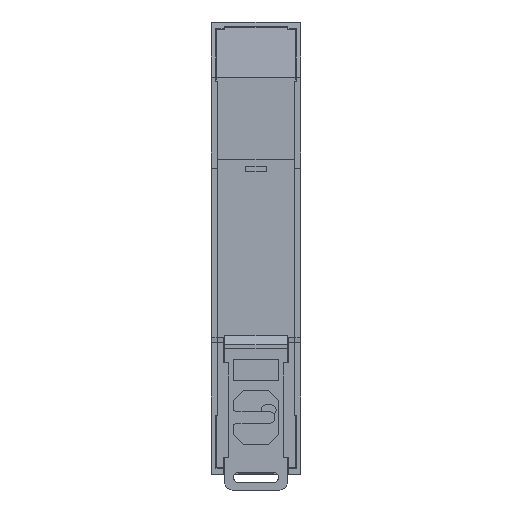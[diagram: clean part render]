
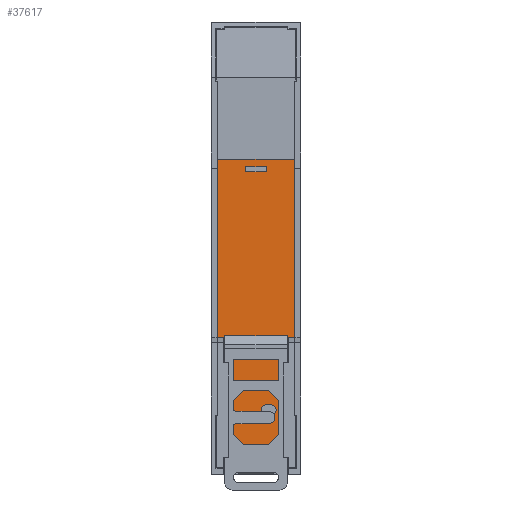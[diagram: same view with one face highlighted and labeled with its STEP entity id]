
A CAD part, front view. The second image highlights one B-rep face of the part: STEP entity #37617.
In plain terms, the highlighted planar face has unit normal (0, -1, 0).
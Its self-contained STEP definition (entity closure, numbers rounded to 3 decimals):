
#33700=DIRECTION('',(-1.,0.,0.));
#33701=VECTOR('',#33700,0.15);
#33702=CARTESIAN_POINT('',(-43.783,-18.789,-43.6));
#33703=LINE('',#33702,#33701);
#33728=DIRECTION('',(-1.,0.,0.));
#33729=VECTOR('',#33728,0.15);
#33730=CARTESIAN_POINT('',(-31.133,-18.789,-43.6));
#33731=LINE('',#33730,#33729);
#33917=DIRECTION('',(0.,0.,-1.));
#33918=VECTOR('',#33917,0.3);
#33919=CARTESIAN_POINT('',(-31.283,-18.789,-43.6));
#33920=LINE('',#33919,#33918);
#33924=DIRECTION('',(-1.,0.,0.));
#33925=VECTOR('',#33924,12.5);
#33926=CARTESIAN_POINT('',(-31.283,-18.789,-43.9));
#33927=LINE('',#33926,#33925);
#33931=DIRECTION('',(0.,0.,1.));
#33932=VECTOR('',#33931,0.3);
#33933=CARTESIAN_POINT('',(-43.783,-18.789,-43.9));
#33934=LINE('',#33933,#33932);
#33938=DIRECTION('',(1.,0.,0.));
#33939=VECTOR('',#33938,1.193);
#33940=CARTESIAN_POINT('',(-45.127,-18.789,-17.75));
#33941=LINE('',#33940,#33939);
#33945=DIRECTION('',(0.,0.,-1.));
#33946=VECTOR('',#33945,35.5);
#33947=CARTESIAN_POINT('',(-45.127,-18.789,17.75));
#33948=LINE('',#33947,#33946);
#33952=DIRECTION('',(0.,0.,1.));
#33953=VECTOR('',#33952,35.5);
#33954=CARTESIAN_POINT('',(-29.94,-18.789,-17.75));
#33955=LINE('',#33954,#33953);
#33959=DIRECTION('',(1.,0.,0.));
#33960=VECTOR('',#33959,1.193);
#33961=CARTESIAN_POINT('',(-31.133,-18.789,-17.75));
#33962=LINE('',#33961,#33960);
#33966=DIRECTION('',(0.,0.,1.));
#33967=VECTOR('',#33966,25.85);
#33968=CARTESIAN_POINT('',(-31.133,-18.789,-43.6));
#33969=LINE('',#33968,#33967);
#33973=CARTESIAN_POINT('',(-35.533,-18.789,-32.1));
#33974=DIRECTION('',(0.,1.,0.));
#33975=DIRECTION('',(0.,0.,-1.));
#33976=AXIS2_PLACEMENT_3D('',#33973,#33974,#33975);
#33981=CARTESIAN_POINT('',(-34.533,-18.789,-32.1));
#33982=DIRECTION('',(0.,1.,0.));
#33983=DIRECTION('',(0.,0.,1.));
#33984=AXIS2_PLACEMENT_3D('',#33981,#33982,#33983);
#34010=DIRECTION('',(0.,0.,1.));
#34011=VECTOR('',#34010,25.85);
#34012=CARTESIAN_POINT('',(-43.933,-18.789,-43.6));
#34013=LINE('',#34012,#34011);
#34101=DIRECTION('',(1.,0.,0.));
#34102=VECTOR('',#34101,15.187);
#34103=CARTESIAN_POINT('',(-45.127,-18.789,17.75));
#34104=LINE('',#34103,#34102);
#34122=DIRECTION('',(1.,0.,0.));
#34123=VECTOR('',#34122,4.);
#34124=CARTESIAN_POINT('',(-39.533,-18.789,15.25));
#34125=LINE('',#34124,#34123);
#34136=DIRECTION('',(0.,0.,1.));
#34137=VECTOR('',#34136,1.);
#34138=CARTESIAN_POINT('',(-35.533,-18.789,15.25));
#34139=LINE('',#34138,#34137);
#34150=DIRECTION('',(-1.,0.,0.));
#34151=VECTOR('',#34150,4.);
#34152=CARTESIAN_POINT('',(-35.533,-18.789,16.25));
#34153=LINE('',#34152,#34151);
#34164=DIRECTION('',(0.,0.,-1.));
#34165=VECTOR('',#34164,1.);
#34166=CARTESIAN_POINT('',(-39.533,-18.789,16.25));
#34167=LINE('',#34166,#34165);
#34220=DIRECTION('',(1.,0.,0.));
#34221=VECTOR('',#34220,1.);
#34222=CARTESIAN_POINT('',(-35.533,-18.789,-33.1));
#34223=LINE('',#34222,#34221);
#34241=DIRECTION('',(-1.,0.,0.));
#34242=VECTOR('',#34241,1.);
#34243=CARTESIAN_POINT('',(-34.533,-18.789,-31.1));
#34244=LINE('',#34243,#34242);
#34889=CARTESIAN_POINT('',(-45.127,-18.789,-17.75));
#34891=VERTEX_POINT('',#34889);
#34892=CARTESIAN_POINT('',(-45.127,-18.789,17.75));
#34893=VERTEX_POINT('',#34892);
#34940=CARTESIAN_POINT('',(-29.94,-18.789,17.75));
#34941=VERTEX_POINT('',#34940);
#34942=CARTESIAN_POINT('',(-29.94,-18.789,-17.75));
#34943=VERTEX_POINT('',#34942);
#35008=CARTESIAN_POINT('',(-31.133,-18.789,-43.6));
#35009=VERTEX_POINT('',#35008);
#35010=CARTESIAN_POINT('',(-43.933,-18.789,-43.6));
#35011=VERTEX_POINT('',#35010);
#35014=CARTESIAN_POINT('',(-43.933,-18.789,-17.75));
#35015=VERTEX_POINT('',#35014);
#35018=CARTESIAN_POINT('',(-31.133,-18.789,-17.75));
#35019=VERTEX_POINT('',#35018);
#35020=CARTESIAN_POINT('',(-35.533,-18.789,-33.1));
#35021=CARTESIAN_POINT('',(-35.533,-18.789,-31.1));
#35022=VERTEX_POINT('',#35020);
#35023=VERTEX_POINT('',#35021);
#35024=CARTESIAN_POINT('',(-34.533,-18.789,-31.1));
#35025=VERTEX_POINT('',#35024);
#35026=CARTESIAN_POINT('',(-34.533,-18.789,-33.1));
#35027=VERTEX_POINT('',#35026);
#35028=CARTESIAN_POINT('',(-39.533,-18.789,15.25));
#35029=CARTESIAN_POINT('',(-35.533,-18.789,15.25));
#35030=VERTEX_POINT('',#35028);
#35031=VERTEX_POINT('',#35029);
#35032=CARTESIAN_POINT('',(-39.533,-18.789,16.25));
#35033=VERTEX_POINT('',#35032);
#35034=CARTESIAN_POINT('',(-35.533,-18.789,16.25));
#35035=VERTEX_POINT('',#35034);
#35096=CARTESIAN_POINT('',(-31.283,-18.789,-43.9));
#35097=CARTESIAN_POINT('',(-43.783,-18.789,-43.9));
#35098=VERTEX_POINT('',#35096);
#35099=VERTEX_POINT('',#35097);
#35100=CARTESIAN_POINT('',(-31.283,-18.789,-43.6));
#35101=VERTEX_POINT('',#35100);
#35102=CARTESIAN_POINT('',(-43.783,-18.789,-43.6));
#35103=VERTEX_POINT('',#35102);
#37573=CARTESIAN_POINT('',(-46.433,-18.789,-17.75));
#37574=DIRECTION('',(0.,1.,0.));
#37575=DIRECTION('',(0.,0.,1.));
#37576=AXIS2_PLACEMENT_3D('',#37573,#37574,#37575);
#37577=PLANE('',#37576);
#37578=ORIENTED_EDGE('',*,*,#37405,.T.);
#37579=ORIENTED_EDGE('',*,*,#36802,.T.);
#37580=ORIENTED_EDGE('',*,*,#36863,.T.);
#37582=ORIENTED_EDGE('',*,*,#37581,.T.);
#37583=ORIENTED_EDGE('',*,*,#37388,.T.);
#37585=ORIENTED_EDGE('',*,*,#37584,.T.);
#37587=ORIENTED_EDGE('',*,*,#37586,.F.);
#37588=ORIENTED_EDGE('',*,*,#35519,.F.);
#37590=ORIENTED_EDGE('',*,*,#37589,.T.);
#37591=ORIENTED_EDGE('',*,*,#37172,.F.);
#37593=ORIENTED_EDGE('',*,*,#37592,.F.);
#37594=ORIENTED_EDGE('',*,*,#37510,.F.);
#37595=EDGE_LOOP('',(#37578,#37579,#37580,#37582,#37583,#37585,#37587,#37588,
#37590,#37591,#37593,#37594));
#37596=FACE_OUTER_BOUND('',#37595,.F.);
#37598=ORIENTED_EDGE('',*,*,#37597,.T.);
#37600=ORIENTED_EDGE('',*,*,#37599,.T.);
#37602=ORIENTED_EDGE('',*,*,#37601,.T.);
#37604=ORIENTED_EDGE('',*,*,#37603,.T.);
#37605=EDGE_LOOP('',(#37598,#37600,#37602,#37604));
#37606=FACE_BOUND('',#37605,.F.);
#37608=ORIENTED_EDGE('',*,*,#37607,.F.);
#37610=ORIENTED_EDGE('',*,*,#37609,.T.);
#37612=ORIENTED_EDGE('',*,*,#37611,.F.);
#37614=ORIENTED_EDGE('',*,*,#37613,.T.);
#37615=EDGE_LOOP('',(#37608,#37610,#37612,#37614));
#37616=FACE_BOUND('',#37615,.F.);
#33977=CIRCLE('',#33976,1.);
#33985=CIRCLE('',#33984,1.);
#35519=EDGE_CURVE('',#34893,#34891,#33948,.T.);
#36802=EDGE_CURVE('',#35101,#35098,#33920,.T.);
#36863=EDGE_CURVE('',#35098,#35099,#33927,.T.);
#37172=EDGE_CURVE('',#34943,#34941,#33955,.T.);
#37388=EDGE_CURVE('',#35103,#35011,#33703,.T.);
#37405=EDGE_CURVE('',#35009,#35101,#33731,.T.);
#37510=EDGE_CURVE('',#35009,#35019,#33969,.T.);
#37581=EDGE_CURVE('',#35099,#35103,#33934,.T.);
#37584=EDGE_CURVE('',#35011,#35015,#34013,.T.);
#37586=EDGE_CURVE('',#34891,#35015,#33941,.T.);
#37589=EDGE_CURVE('',#34893,#34941,#34104,.T.);
#37592=EDGE_CURVE('',#35019,#34943,#33962,.T.);
#37597=EDGE_CURVE('',#35030,#35031,#34125,.T.);
#37599=EDGE_CURVE('',#35031,#35035,#34139,.T.);
#37601=EDGE_CURVE('',#35035,#35033,#34153,.T.);
#37603=EDGE_CURVE('',#35033,#35030,#34167,.T.);
#37607=EDGE_CURVE('',#35022,#35023,#33977,.T.);
#37609=EDGE_CURVE('',#35022,#35027,#34223,.T.);
#37611=EDGE_CURVE('',#35025,#35027,#33985,.T.);
#37613=EDGE_CURVE('',#35025,#35023,#34244,.T.);
#37617=ADVANCED_FACE('',(#37596,#37606,#37616),#37577,.F.);
